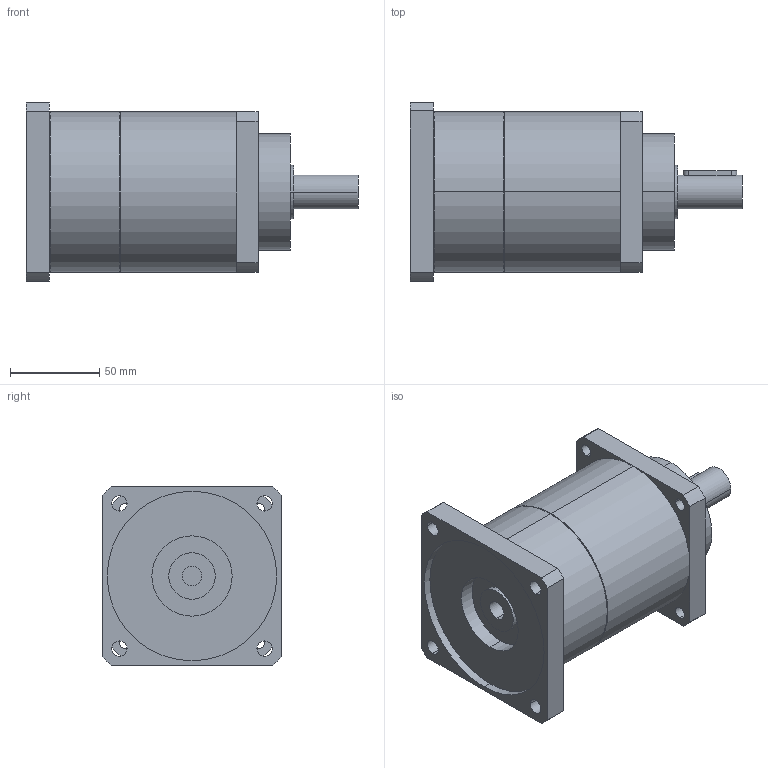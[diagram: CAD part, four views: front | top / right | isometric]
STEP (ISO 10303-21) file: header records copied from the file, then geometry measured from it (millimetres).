
FILE_DESCRIPTION(('CoCreate Modeling STEP Export'),'2;1');
FILE_NAME('GPT90_ig-9-12-16-20-25-28-35-40-50-70-100_19_B5T_11_P07.stp','2015-02-04T11:24:04',(''),(''),'CoCreate Modeling STEP processor for AP214 (Solid Model)','CoCreate Modeling 16.00C 25-Feb-2009 (C) Parametric Technology GmbH','');
FILE_SCHEMA(('AUTOMOTIVE_DESIGN { 1 0 10303 214 1 1 1 1 }'));
Length unit declared in the file: millimetre
Products named in the file (2): GPT90_ig-9-12-16-20-25-28-35-40-50-70-100_19_B5T_11_P07
Assembly tree (1 placements, depth 2):
  GPT90_ig-9-12-16-20-25-28-35-40-50-70-100_19_B5T_11_P07
    GPT90_ig-9-12-16-20-25-28-35-40-50-70-100_19_B5T_11_P07
Bounding box: 186 x 100 x 100 mm (x, y, z)
Volume: 913324.5 mm3; surface area: 74786.1 mm2
Topology: 1 solids, 1 shells, 77 faces, 206 edges, 141 vertices
Faces by surface type: cylinder 46, plane 27, cone 4
Entity records: 2596 total; most frequent: CARTESIAN_POINT 742, ORIENTED_EDGE 412, DIRECTION 324, EDGE_CURVE 206, VERTEX_POINT 141, AXIS2_PLACEMENT_3D 120, EDGE_LOOP 103, VECTOR 84
